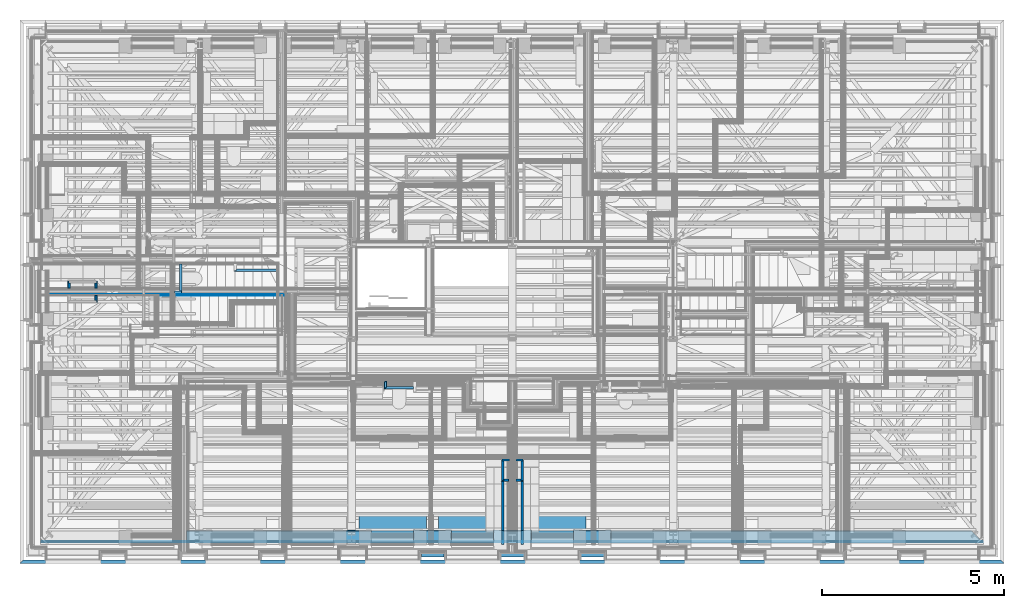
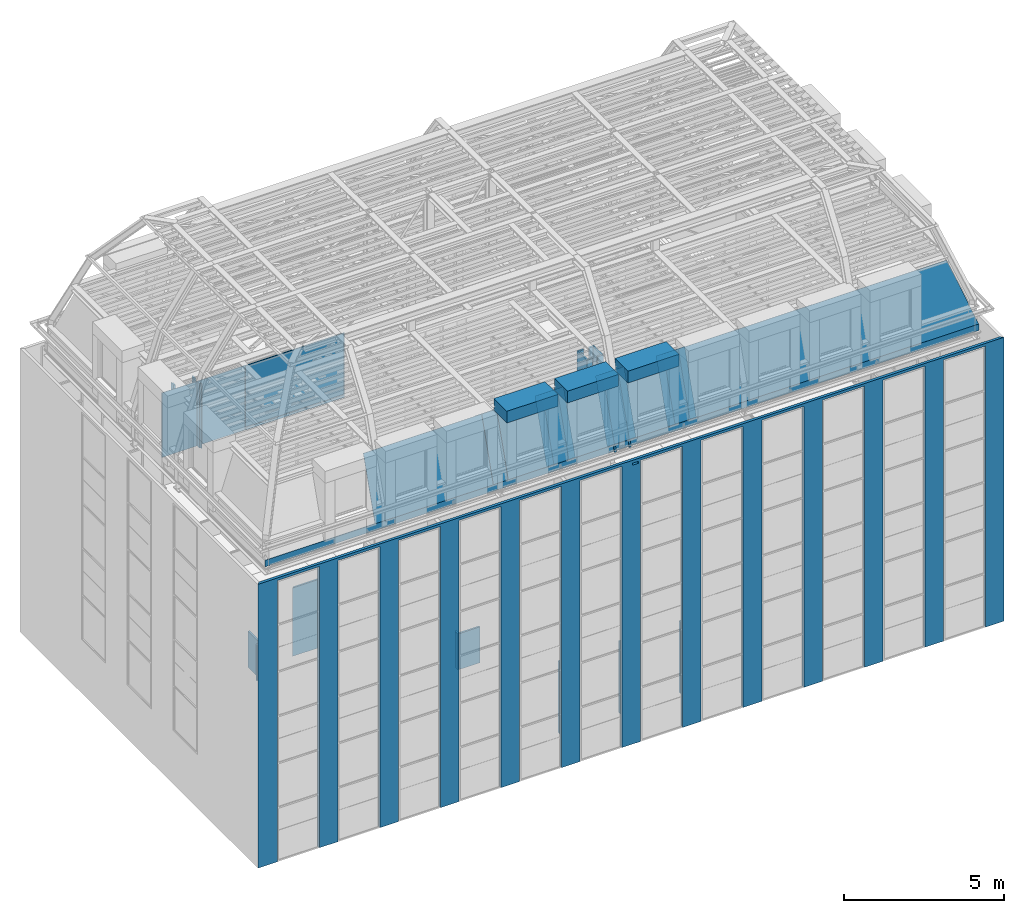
# One storey, part 14 of 183: 37 walls, 13 openings.
"""IFC2X3 building model written with IfcOpenShell, lengths in metres."""

from ifc_helpers import new_model, entity, si_unit, converted_unit, derived_unit, money_unit, direction, frame, frame_2d, origin_with_axes, place, context, subcontext, project, spatial, polyline, rectangle, outline, extrude, clip, halfspace, material, layer, layer_set, layer_usage, type_object, element, save


model = new_model("IFC2X3")

# Units and contexts
model_context = context("Model", 3, precision=1e-05, world=origin_with_axes(), true_north=direction((0.0, 1.0)))
body_context = subcontext(model_context, "Body", "Model", "MODEL_VIEW", scale=1.0)
ifc_project = project(units=[si_unit("LENGTHUNIT", "METRE"), si_unit("AREAUNIT", "SQUARE_METRE"), si_unit("VOLUMEUNIT", "CUBIC_METRE"), si_unit("ABSORBEDDOSEUNIT", "GRAY"), si_unit("AMOUNTOFSUBSTANCEUNIT", "MOLE"), si_unit("DOSEEQUIVALENTUNIT", "SIEVERT"), si_unit("ELECTRICCAPACITANCEUNIT", "FARAD"), si_unit("ELECTRICCHARGEUNIT", "COULOMB"), si_unit("ELECTRICCONDUCTANCEUNIT", "SIEMENS"), si_unit("ELECTRICCURRENTUNIT", "AMPERE"), si_unit("ELECTRICRESISTANCEUNIT", "OHM"), si_unit("ELECTRICVOLTAGEUNIT", "VOLT"), si_unit("ENERGYUNIT", "JOULE"), si_unit("FORCEUNIT", "NEWTON"), si_unit("FREQUENCYUNIT", "HERTZ"), si_unit("ILLUMINANCEUNIT", "LUX"), si_unit("INDUCTANCEUNIT", "HENRY"), si_unit("LUMINOUSFLUXUNIT", "LUMEN"), si_unit("LUMINOUSINTENSITYUNIT", "CANDELA"), si_unit("MAGNETICFLUXDENSITYUNIT", "TESLA"), si_unit("MAGNETICFLUXUNIT", "WEBER"), si_unit("MASSUNIT", "GRAM"), converted_unit("PLANEANGLEUNIT", "degree", entity("IfcReal", 0.0174532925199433), si_unit("PLANEANGLEUNIT", "RADIAN"), dimensions=[0, 0, 0, 0, 0, 0, 0]), si_unit("POWERUNIT", "WATT"), si_unit("PRESSUREUNIT", "PASCAL"), si_unit("RADIOACTIVITYUNIT", "BECQUEREL"), si_unit("SOLIDANGLEUNIT", "STERADIAN"), si_unit("THERMODYNAMICTEMPERATUREUNIT", "KELVIN"), si_unit("TIMEUNIT", "SECOND"), derived_unit("ACCELERATIONUNIT", [(si_unit("LENGTHUNIT", "METRE"), 1), (si_unit("TIMEUNIT", "SECOND"), -2)]), derived_unit("ANGULARVELOCITYUNIT", [(converted_unit("PLANEANGLEUNIT", "degree", entity("IfcReal", 0.0174532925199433), si_unit("PLANEANGLEUNIT", "RADIAN"), dimensions=[0, 0, 0, 0, 0, 0, 0]), 1), (si_unit("TIMEUNIT", "SECOND"), -1)]), derived_unit("CURVATUREUNIT", [(converted_unit("PLANEANGLEUNIT", "degree", entity("IfcReal", 0.0174532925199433), si_unit("PLANEANGLEUNIT", "RADIAN"), dimensions=[0, 0, 0, 0, 0, 0, 0]), 1), (si_unit("LENGTHUNIT", "METRE"), -1)]), derived_unit("DYNAMICVISCOSITYUNIT", [(si_unit("PRESSUREUNIT", "PASCAL"), 1), (si_unit("TIMEUNIT", "SECOND"), 1)]), derived_unit("HEATFLUXDENSITYUNIT", [(si_unit("POWERUNIT", "WATT"), 1), (si_unit("LENGTHUNIT", "METRE"), -2)]), derived_unit("HEATINGVALUEUNIT", [(si_unit("ENERGYUNIT", "JOULE"), 1), (si_unit("MASSUNIT", "GRAM"), -1)]), derived_unit("INTEGERCOUNTRATEUNIT", [(si_unit("TIMEUNIT", "SECOND"), -1)]), derived_unit("IONCONCENTRATIONUNIT", [(si_unit("MASSUNIT", "GRAM"), 1), (si_unit("VOLUMEUNIT", "CUBIC_METRE"), -1)]), derived_unit("ISOTHERMALMOISTURECAPACITYUNIT", [(si_unit("VOLUMEUNIT", "CUBIC_METRE"), 1), (si_unit("MASSUNIT", "GRAM"), -1)]), derived_unit("KINEMATICVISCOSITYUNIT", [(si_unit("AREAUNIT", "SQUARE_METRE"), 1), (si_unit("TIMEUNIT", "SECOND"), -1)]), derived_unit("LINEARFORCEUNIT", [(si_unit("FORCEUNIT", "NEWTON"), 1), (si_unit("LENGTHUNIT", "METRE"), -1)]), derived_unit("LINEARMOMENTUNIT", [(si_unit("FORCEUNIT", "NEWTON"), 1), (si_unit("LENGTHUNIT", "METRE"), -1)]), derived_unit("LINEARSTIFFNESSUNIT", [(si_unit("FORCEUNIT", "NEWTON"), 1), (si_unit("LENGTHUNIT", "METRE"), -1)]), derived_unit("LINEARVELOCITYUNIT", [(si_unit("LENGTHUNIT", "METRE"), 1), (si_unit("TIMEUNIT", "SECOND"), -1)]), derived_unit("LUMINOUSINTENSITYDISTRIBUTIONUNIT", [(si_unit("LUMINOUSINTENSITYUNIT", "CANDELA"), 1), (si_unit("LUMINOUSFLUXUNIT", "LUMEN"), -1)]), derived_unit("MASSDENSITYUNIT", [(si_unit("MASSUNIT", "GRAM"), 1), (si_unit("VOLUMEUNIT", "CUBIC_METRE"), -1)]), derived_unit("MASSFLOWRATEUNIT", [(si_unit("MASSUNIT", "GRAM"), 1), (si_unit("TIMEUNIT", "SECOND"), -1)]), derived_unit("MASSPERLENGTHUNIT", [(si_unit("MASSUNIT", "GRAM"), 1), (si_unit("LENGTHUNIT", "METRE"), -1)]), derived_unit("MODULUSOFELASTICITYUNIT", [(si_unit("FORCEUNIT", "NEWTON"), 1), (si_unit("AREAUNIT", "SQUARE_METRE"), -1)]), derived_unit("MODULUSOFLINEARSUBGRADEREACTIONUNIT", [(si_unit("FORCEUNIT", "NEWTON"), 1), (si_unit("LENGTHUNIT", "METRE"), -2)]), derived_unit("MODULUSOFROTATIONALSUBGRADEREACTIONUNIT", [(si_unit("FORCEUNIT", "NEWTON"), 1), (si_unit("LENGTHUNIT", "METRE"), 1)]), derived_unit("MODULUSOFSUBGRADEREACTIONUNIT", [(si_unit("FORCEUNIT", "NEWTON"), 1), (si_unit("VOLUMEUNIT", "CUBIC_METRE"), -1)]), derived_unit("MOISTUREDIFFUSIVITYUNIT", [(si_unit("VOLUMEUNIT", "CUBIC_METRE"), 1), (si_unit("TIMEUNIT", "SECOND"), -1)]), derived_unit("MOLECULARWEIGHTUNIT", [(si_unit("MASSUNIT", "GRAM"), 1), (si_unit("AMOUNTOFSUBSTANCEUNIT", "MOLE"), -1)]), derived_unit("PLANARFORCEUNIT", [(si_unit("FORCEUNIT", "NEWTON"), 1), (si_unit("LENGTHUNIT", "METRE"), -2)]), derived_unit("ROTATIONALFREQUENCYUNIT", [(si_unit("TIMEUNIT", "SECOND"), -1)]), derived_unit("ROTATIONALMASSUNIT", [(si_unit("MASSUNIT", "GRAM"), 1), (si_unit("LENGTHUNIT", "METRE"), 2)]), derived_unit("ROTATIONALSTIFFNESSUNIT", [(si_unit("FORCEUNIT", "NEWTON"), 1), (si_unit("LENGTHUNIT", "METRE"), 1), (converted_unit("PLANEANGLEUNIT", "degree", entity("IfcReal", 0.0174532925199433), si_unit("PLANEANGLEUNIT", "RADIAN"), dimensions=[0, 0, 0, 0, 0, 0, 0]), -1)]), derived_unit("SECTIONAREAINTEGRALUNIT", [(si_unit("LENGTHUNIT", "METRE"), 5)]), derived_unit("SECTIONMODULUSUNIT", [(si_unit("LENGTHUNIT", "METRE"), 3)]), derived_unit("SHEARMODULUSUNIT", [(si_unit("FORCEUNIT", "NEWTON"), 1), (si_unit("AREAUNIT", "SQUARE_METRE"), -1)]), derived_unit("SOUNDPOWERUNIT", [(si_unit("ENERGYUNIT", "JOULE"), 1), (si_unit("TIMEUNIT", "SECOND"), -1)]), derived_unit("SPECIFICHEATCAPACITYUNIT", [(si_unit("FORCEUNIT", "NEWTON"), 1), (si_unit("MASSUNIT", "GRAM"), -1), (si_unit("THERMODYNAMICTEMPERATUREUNIT", "KELVIN"), -1)]), derived_unit("TEMPERATUREGRADIENTUNIT", [(si_unit("THERMODYNAMICTEMPERATUREUNIT", "KELVIN"), 1), (si_unit("LENGTHUNIT", "METRE"), -1)]), derived_unit("THERMALADMITTANCEUNIT", [(si_unit("POWERUNIT", "WATT"), 1), (si_unit("AREAUNIT", "SQUARE_METRE"), -1), (si_unit("THERMODYNAMICTEMPERATUREUNIT", "KELVIN"), -1)]), derived_unit("THERMALCONDUCTANCEUNIT", [(si_unit("POWERUNIT", "WATT"), 1), (si_unit("LENGTHUNIT", "METRE"), -1), (si_unit("THERMODYNAMICTEMPERATUREUNIT", "KELVIN"), -1)]), derived_unit("THERMALEXPANSIONCOEFFICIENTUNIT", [(si_unit("THERMODYNAMICTEMPERATUREUNIT", "KELVIN"), -1)]), derived_unit("THERMALRESISTANCEUNIT", [(si_unit("AREAUNIT", "SQUARE_METRE"), 1), (si_unit("POWERUNIT", "WATT"), -1)]), derived_unit("THERMALTRANSMITTANCEUNIT", [(si_unit("POWERUNIT", "WATT"), 1), (si_unit("AREAUNIT", "SQUARE_METRE"), -1), (si_unit("THERMODYNAMICTEMPERATUREUNIT", "KELVIN"), -1)]), derived_unit("TORQUEUNIT", [(si_unit("FORCEUNIT", "NEWTON"), 1), (si_unit("LENGTHUNIT", "METRE"), 1)]), derived_unit("VAPORPERMEABILITYUNIT", [(si_unit("MASSUNIT", "GRAM"), 1), (si_unit("TIMEUNIT", "SECOND"), -1)]), derived_unit("VOLUMETRICFLOWRATEUNIT", [(si_unit("VOLUMEUNIT", "CUBIC_METRE"), 1), (si_unit("TIMEUNIT", "SECOND"), -1)]), derived_unit("WARPINGCONSTANTUNIT", [(si_unit("LENGTHUNIT", "METRE"), 6)]), derived_unit("WARPINGMOMENTUNIT", [(si_unit("FORCEUNIT", "NEWTON"), 1), (si_unit("LENGTHUNIT", "METRE"), 2)]), money_unit("GBP")], contexts=[model_context])

# Site, building, storey
site_placement = place(None, origin_with_axes())
site = spatial("IfcSite", under=ifc_project, at=site_placement, Name="Site", CompositionType="ELEMENT")
building_placement = place(site_placement, origin_with_axes())
building = spatial("IfcBuilding", under=site, at=building_placement, Name="Building01", CompositionType="ELEMENT")
storey_placement = place(building_placement, frame((0.0, 0.0, 5.15), z_axis=(0.0, 0.0, 1.0), x_axis=(1.0, 0.0, 0.0)))
storey = spatial("IfcBuildingStorey", under=building, at=storey_placement, Name="1F", CompositionType="ELEMENT", Elevation=5.15)

# Wall, openings
ifc_material_1 = material(Name="A_BSUK_WallsExternal_Brick")
ifc_layer_1 = layer(ifc_material_1, 0.1, ventilated=False)
ifc_layer_set_1 = layer_set([ifc_layer_1])
ifc_layer_usage_1 = layer_usage(ifc_layer_set_1, "AXIS2", "POSITIVE", 0.0)
wall_type_1 = type_object("IfcWallType", Name="A-Walls-ExternalBrick", PredefinedType="NOTDEFINED")
wall_1_placement = place(storey_placement, frame((0.0, 0.0, -1.18), z_axis=(0.0, 0.0, 1.0), x_axis=(1.0, 0.0, 0.0)))
wall_1 = element("IfcWallStandardCase", 1, at=wall_1_placement, inside=storey, type_object=wall_type_1, material=ifc_layer_usage_1, Name="A-Walls-ExternalBrick", ObjectType="A-Walls-ExternalBrick", context=body_context, shape_type="SweptSolid", body=[
    extrude(outline(polyline([(26.88, 0.1), (0.1, 0.1), (0.0, 0.0), (26.98, 0.0), (26.88, 0.1)])), origin_with_axes(), (0.0, 0.0, 1.0), 10.850238),
])
opening_1_placement = place(wall_1_placement, frame((13.538416, 0.0, 10.664949), z_axis=(0.0, 0.0, 1.0), x_axis=(1.0, 0.0, 0.0)))
element("IfcOpeningElement", 2, at=opening_1_placement, cuts=wall_1, Name="Opening", ObjectType="Opening", context=body_context, shape_type="SweptSolid", body=[
    extrude(rectangle(XDim=0.075389, YDim=0.220658, at=frame_2d((-0.110329, 0.037695), x_axis=(0.0, -1.0))), frame((0.0, 0.0, 0.0), z_axis=(0.0, 1.0, 0.0), x_axis=(-1.0, 0.0, 0.0)), (0.0, 0.0, 1.0), 0.1),
])
opening_2_placement = place(wall_1_placement, frame((22.6, 0.0, 0.0), z_axis=(0.0, 0.0, 1.0), x_axis=(1.0, 0.0, 0.0)))
element("IfcOpeningElement", 3, at=opening_2_placement, cuts=wall_1, Name="Opening", ObjectType="Opening", context=body_context, shape_type="SweptSolid", body=[
    extrude(rectangle(XDim=1.52, YDim=10.75, at=frame_2d((-0.76, 5.375), x_axis=(-1.0, 0.0))), frame((0.0, 0.0, 0.0), z_axis=(0.0, 1.0, 0.0), x_axis=(-1.0, 0.0, 0.0)), (0.0, 0.0, 1.0), 0.1),
])
opening_3_placement = place(wall_1_placement, frame((20.41, 0.0, 0.0), z_axis=(0.0, 0.0, 1.0), x_axis=(1.0, 0.0, 0.0)))
element("IfcOpeningElement", 4, at=opening_3_placement, cuts=wall_1, Name="Opening", ObjectType="Opening", context=body_context, shape_type="SweptSolid", body=[
    extrude(rectangle(XDim=1.52, YDim=10.75, at=frame_2d((-0.76, 5.375), x_axis=(-1.0, 0.0))), frame((0.0, 0.0, 0.0), z_axis=(0.0, 1.0, 0.0), x_axis=(-1.0, 0.0, 0.0)), (0.0, 0.0, 1.0), 0.1),
])
opening_4_placement = place(wall_1_placement, frame((18.22, 0.0, 0.0), z_axis=(0.0, 0.0, 1.0), x_axis=(1.0, 0.0, 0.0)))
element("IfcOpeningElement", 5, at=opening_4_placement, cuts=wall_1, Name="Opening", ObjectType="Opening", context=body_context, shape_type="SweptSolid", body=[
    extrude(rectangle(XDim=1.52, YDim=10.75, at=frame_2d((-0.76, 5.375), x_axis=(-1.0, 0.0))), frame((0.0, 0.0, 0.0), z_axis=(0.0, 1.0, 0.0), x_axis=(-1.0, 0.0, 0.0)), (0.0, 0.0, 1.0), 0.1),
])
opening_5_placement = place(wall_1_placement, frame((16.03, 0.0, 0.0), z_axis=(0.0, 0.0, 1.0), x_axis=(1.0, 0.0, 0.0)))
element("IfcOpeningElement", 6, at=opening_5_placement, cuts=wall_1, Name="Opening", ObjectType="Opening", context=body_context, shape_type="SweptSolid", body=[
    extrude(rectangle(XDim=1.52, YDim=10.75, at=frame_2d((-0.76, 5.375), x_axis=(-1.0, 0.0))), frame((0.0, 0.0, 0.0), z_axis=(0.0, 1.0, 0.0), x_axis=(-1.0, 0.0, 0.0)), (0.0, 0.0, 1.0), 0.1),
])
opening_6_placement = place(wall_1_placement, frame((13.84, 0.0, 0.0), z_axis=(0.0, 0.0, 1.0), x_axis=(1.0, 0.0, 0.0)))
element("IfcOpeningElement", 7, at=opening_6_placement, cuts=wall_1, Name="Opening", ObjectType="Opening", context=body_context, shape_type="SweptSolid", body=[
    extrude(rectangle(XDim=1.52, YDim=10.75, at=frame_2d((-0.76, 5.375), x_axis=(-1.0, 0.0))), frame((0.0, 0.0, 0.0), z_axis=(0.0, 1.0, 0.0), x_axis=(-1.0, 0.0, 0.0)), (0.0, 0.0, 1.0), 0.1),
])
opening_7_placement = place(wall_1_placement, frame((11.65, 0.0, 0.0), z_axis=(0.0, 0.0, 1.0), x_axis=(1.0, 0.0, 0.0)))
element("IfcOpeningElement", 8, at=opening_7_placement, cuts=wall_1, Name="Opening", ObjectType="Opening", context=body_context, shape_type="SweptSolid", body=[
    extrude(rectangle(XDim=1.52, YDim=10.75, at=frame_2d((-0.76, 5.375), x_axis=(-1.0, 0.0))), frame((0.0, 0.0, 0.0), z_axis=(0.0, 1.0, 0.0), x_axis=(-1.0, 0.0, 0.0)), (0.0, 0.0, 1.0), 0.1),
])
opening_8_placement = place(wall_1_placement, frame((9.46, 0.0, 0.0), z_axis=(0.0, 0.0, 1.0), x_axis=(1.0, 0.0, 0.0)))
element("IfcOpeningElement", 9, at=opening_8_placement, cuts=wall_1, Name="Opening", ObjectType="Opening", context=body_context, shape_type="SweptSolid", body=[
    extrude(rectangle(XDim=1.52, YDim=10.75, at=frame_2d((-0.76, 5.375), x_axis=(-1.0, 0.0))), frame((0.0, 0.0, 0.0), z_axis=(0.0, 1.0, 0.0), x_axis=(-1.0, 0.0, 0.0)), (0.0, 0.0, 1.0), 0.1),
])
opening_9_placement = place(wall_1_placement, frame((24.79, 0.0, 0.0), z_axis=(0.0, 0.0, 1.0), x_axis=(1.0, 0.0, 0.0)))
element("IfcOpeningElement", 10, at=opening_9_placement, cuts=wall_1, Name="Opening", ObjectType="Opening", context=body_context, shape_type="SweptSolid", body=[
    extrude(rectangle(XDim=1.52, YDim=10.75, at=frame_2d((-0.76, 5.375), x_axis=(-1.0, 0.0))), frame((0.0, 0.0, 0.0), z_axis=(0.0, 1.0, 0.0), x_axis=(-1.0, 0.0, 0.0)), (0.0, 0.0, 1.0), 0.1),
])
opening_10_placement = place(wall_1_placement, frame((7.27, 0.0, 0.0), z_axis=(0.0, 0.0, 1.0), x_axis=(1.0, 0.0, 0.0)))
element("IfcOpeningElement", 11, at=opening_10_placement, cuts=wall_1, Name="Opening", ObjectType="Opening", context=body_context, shape_type="SweptSolid", body=[
    extrude(rectangle(XDim=1.52, YDim=10.75, at=frame_2d((-0.76, 5.375), x_axis=(-1.0, 0.0))), frame((0.0, 0.0, 0.0), z_axis=(0.0, 1.0, 0.0), x_axis=(-1.0, 0.0, 0.0)), (0.0, 0.0, 1.0), 0.1),
])
opening_11_placement = place(wall_1_placement, frame((5.08, 0.0, 0.0), z_axis=(0.0, 0.0, 1.0), x_axis=(1.0, 0.0, 0.0)))
element("IfcOpeningElement", 12, at=opening_11_placement, cuts=wall_1, Name="Opening", ObjectType="Opening", context=body_context, shape_type="SweptSolid", body=[
    extrude(rectangle(XDim=1.52, YDim=10.75, at=frame_2d((-0.76, 5.375), x_axis=(-1.0, 0.0))), frame((0.0, 0.0, 0.0), z_axis=(0.0, 1.0, 0.0), x_axis=(-1.0, 0.0, 0.0)), (0.0, 0.0, 1.0), 0.1),
])
opening_12_placement = place(wall_1_placement, frame((2.89, 0.0, 0.0), z_axis=(0.0, 0.0, 1.0), x_axis=(1.0, 0.0, 0.0)))
element("IfcOpeningElement", 13, at=opening_12_placement, cuts=wall_1, Name="Opening", ObjectType="Opening", context=body_context, shape_type="SweptSolid", body=[
    extrude(rectangle(XDim=1.52, YDim=10.75, at=frame_2d((-0.76, 5.375), x_axis=(-1.0, 0.0))), frame((0.0, 0.0, 0.0), z_axis=(0.0, 1.0, 0.0), x_axis=(-1.0, 0.0, 0.0)), (0.0, 0.0, 1.0), 0.1),
])
opening_13_placement = place(wall_1_placement, frame((0.7, 0.0, 0.0), z_axis=(0.0, 0.0, 1.0), x_axis=(1.0, 0.0, 0.0)))
element("IfcOpeningElement", 14, at=opening_13_placement, cuts=wall_1, Name="Opening", ObjectType="Opening", context=body_context, shape_type="SweptSolid", body=[
    extrude(rectangle(XDim=1.52, YDim=10.75, at=frame_2d((-0.76, 5.375), x_axis=(-1.0, 0.0))), frame((0.0, 0.0, 0.0), z_axis=(0.0, 1.0, 0.0), x_axis=(-1.0, 0.0, 0.0)), (0.0, 0.0, 1.0), 0.1),
])

# Walls
ifc_material_2 = material(Name="A_BSUK_WallsExternal_Block")
ifc_layer_2 = layer(ifc_material_2, 0.1, ventilated=False)
ifc_layer_set_2 = layer_set([ifc_layer_2])
ifc_layer_usage_2 = layer_usage(ifc_layer_set_2, "AXIS2", "POSITIVE", 0.0)
wall_type_2 = type_object("IfcWallType", Name="A-Walls-ExternalBlock", PredefinedType="NOTDEFINED")
for number, where, z_axis, x_axis, name in (
    (15, (11.627, 0.27, 0.0), (0.0, 0.0, 1.0), (-1.0, 0.0, 0.0), "A-Walls-ExternalBlock"),
    (16, (13.817, 0.27, 0.0), (0.0, 0.0, 1.0), (-1.0, 0.0, 0.0), "A-Walls-ExternalBlock"),
    (17, (16.007, 0.27, 0.0), (0.0, 0.0, 1.0), (-1.0, 0.0, 0.0), "A-Walls-ExternalBlock"),
):
    element("IfcWallStandardCase", number, at=place(storey_placement, frame(where, z_axis=z_axis, x_axis=x_axis)), inside=storey, type_object=wall_type_2, material=ifc_layer_usage_2, Name=name, ObjectType="A-Walls-ExternalBlock", context=body_context, shape_type="SweptSolid", body=[
        extrude(rectangle(XDim=0.624, YDim=0.1, at=frame_2d((0.312, 0.05), x_axis=(-1.0, 0.0))), origin_with_axes(), (0.0, 0.0, 1.0), 2.74),
    ])
ifc_material_3 = material(Name="A_BSUK_WallsInternal")
ifc_layer_3 = layer(ifc_material_3, 0.015, ventilated=False)
ifc_layer_set_3 = layer_set([ifc_layer_3])
ifc_layer_usage_3 = layer_usage(ifc_layer_set_3, "AXIS2", "POSITIVE", 0.0)
wall_type_3 = type_object("IfcWallType", Name="A-Walls-Internal", PredefinedType="NOTDEFINED")
wall_2_placement = place(storey_placement, frame((0.5938, 0.5788, 9.78), z_axis=(0.0, 0.0, 1.0), x_axis=(1.0, 0.0, 0.0)))
element("IfcWallStandardCase", 18, at=wall_2_placement, inside=storey, type_object=wall_type_3, material=ifc_layer_usage_3, Name="7C", ObjectType="A-Walls-Internal", context=body_context, shape_type="SweptSolid", body=[
    extrude(rectangle(XDim=25.8074, YDim=0.015, at=frame_2d((12.9037, 0.0075), x_axis=(-1.0, 0.0))), origin_with_axes(), (0.0, 0.0, 1.0), 0.25),
])
wall_3_placement = place(storey_placement, frame((0.6088, 0.5938, 9.78), z_axis=(0.0, 0.0, 1.0), x_axis=(1.0, 0.0, 0.0)))
element("IfcWallStandardCase", 19, at=wall_3_placement, inside=storey, type_object=wall_type_3, material=ifc_layer_usage_3, Name="7C", ObjectType="A-Walls-Internal", context=body_context, shape_type="SweptSolid", body=[
    extrude(rectangle(XDim=25.7774, YDim=0.015, at=frame_2d((12.8887, 0.0075), x_axis=(-1.0, 0.0))), origin_with_axes(), (0.0, 0.0, 1.0), 0.25),
])
ifc_material_4 = material(Name="A_BSUK_Walls_Timber")
ifc_layer_4 = layer(ifc_material_4, 0.015, ventilated=False)
ifc_material_5 = material(Name="A_BSUK_OpeningsClearance")
ifc_layer_5 = layer(ifc_material_5, 0.05, ventilated=False)
ifc_layer_set_4 = layer_set([ifc_layer_4, ifc_layer_5])
ifc_layer_usage_4 = layer_usage(ifc_layer_set_4, "AXIS2", "POSITIVE", 0.0)
wall_type_4 = type_object("IfcWallType", Name="SHE_A-Walls_Type05c_PreWallShell_65mm", PredefinedType="NOTDEFINED")
wall_4_placement = place(storey_placement, frame((10.057536, 4.845, 0.0), z_axis=(0.0, 0.0, 1.0), x_axis=(0.0, -1.0, 0.0)))
element("IfcWallStandardCase", 20, at=wall_4_placement, inside=storey, type_object=wall_type_4, material=ifc_layer_usage_4, Name="5C", ObjectType="SHE_A-Walls_Type05c_PreWallShell_65mm", context=body_context, shape_type="SweptSolid", body=[
    extrude(outline(polyline([(0.065, -0.065), (0.0, 0.0), (-0.15, 0.0), (-0.15, -0.05), (-0.12, -0.05), (-0.12, -0.065), (0.065, -0.065)])), origin_with_axes(), (0.0, 0.0, 1.0), 1.375),
])
wall_5_placement = place(storey_placement, frame((10.792536, 4.845, 0.0), z_axis=(0.0, 0.0, 1.0), x_axis=(1.0, 0.0, 0.0)))
element("IfcWallStandardCase", 21, at=wall_5_placement, inside=storey, type_object=wall_type_4, material=ifc_layer_usage_4, Name="5C", ObjectType="SHE_A-Walls_Type05c_PreWallShell_65mm", context=body_context, shape_type="SweptSolid", body=[
    extrude(outline(polyline([(0.0, -0.065), (0.0, 0.0), (-0.735, 0.0), (-0.8, -0.065), (0.0, -0.065)])), origin_with_axes(), (0.0, 0.0, 1.0), 1.375),
])
wall_6_placement = place(storey_placement, frame((5.929669, 8.07567, 0.0), z_axis=(0.0, 0.0, 1.0), x_axis=(1.0, 0.0, 0.0)))
element("IfcWallStandardCase", 22, at=wall_6_placement, inside=storey, type_object=wall_type_4, material=ifc_layer_usage_4, Name="5C", ObjectType="SHE_A-Walls_Type05c_PreWallShell_65mm", context=body_context, shape_type="SweptSolid", body=[
    extrude(outline(polyline([(1.135, 0.0), (0.0, 0.0), (0.0, -0.05), (-0.05, -0.05), (-0.05, -0.065), (1.135, -0.065), (1.135, 0.0)])), origin_with_axes(), (0.0, 0.0, 1.0), 2.615),
])
ifc_layer_set_5 = layer_set([ifc_layer_5, ifc_layer_4])
ifc_layer_usage_5 = layer_usage(ifc_layer_set_5, "AXIS2", "POSITIVE", 0.0)
wall_7_placement = place(storey_placement, frame((4.37573, 8.21067, 0.0), z_axis=(0.0, 0.0, 1.0), x_axis=(0.0, -1.0, 0.0)))
element("IfcWallStandardCase", 23, at=wall_7_placement, inside=storey, type_object=wall_type_4, material=ifc_layer_usage_5, Name="5C", ObjectType="SHE_A-Walls_Type05c_PreWallShell_65mm", context=body_context, shape_type="SweptSolid", body=[
    extrude(outline(polyline([(0.735, 0.05), (0.8, 0.05), (0.8, 0.065), (0.0, 0.065), (0.0, 0.0), (0.735, 0.0), (0.735, 0.05)])), origin_with_axes(), (0.0, 0.0, 1.0), 1.375),
])
wall_8_placement = place(storey_placement, frame((4.42573, 7.47567, 0.0), z_axis=(0.0, 0.0, 1.0), x_axis=(-1.0, 0.0, 0.0)))
element("IfcWallStandardCase", 24, at=wall_8_placement, inside=storey, type_object=wall_type_4, material=ifc_layer_usage_5, Name="5C", ObjectType="SHE_A-Walls_Type05c_PreWallShell_65mm", context=body_context, shape_type="SweptSolid", body=[
    extrude(rectangle(XDim=0.185, YDim=0.065, at=frame_2d((0.0925, 0.0325), x_axis=(-1.0, 0.0))), origin_with_axes(), (0.0, 0.0, 1.0), 1.375),
])
wall_9_placement = place(storey_placement, frame((13.734998, 2.264668, 9.78), z_axis=(0.0, 0.0, 1.0), x_axis=(0.0, 1.0, 0.0)))
element("IfcWallStandardCase", 25, at=wall_9_placement, inside=storey, type_object=wall_type_4, material=ifc_layer_usage_4, Name="5C", ObjectType="SHE_A-Walls_Type05c_PreWallShell_65mm", context=body_context, shape_type="SweptSolid", body=[
    extrude(outline(polyline([(0.540094, -0.05), (0.540094, 0.0), (0.0, 0.0), (0.0, -0.05), (-0.015, -0.065), (0.605094, -0.065), (0.590094, -0.05), (0.540094, -0.05)])), origin_with_axes(), (0.0, 0.0, 1.0), 2.468),
])
wall_10_placement = place(storey_placement, frame((13.6, 2.314668, 9.78), z_axis=(0.0, 0.0, 1.0), x_axis=(1.0, 0.0, 0.0)))
element("IfcWallStandardCase", 26, at=wall_10_placement, inside=storey, type_object=wall_type_4, material=ifc_layer_usage_4, Name="5C", ObjectType="SHE_A-Walls_Type05c_PreWallShell_65mm", context=body_context, shape_type="SweptSolid", body=[
    extrude(outline(polyline([(0.135, -0.05), (0.135, 0.0), (0.0, 0.0), (0.0, -0.065), (0.199998, -0.065), (0.184998, -0.05), (0.135, -0.05)])), origin_with_axes(), (0.0, 0.0, 1.0), 2.468),
])
wall_11_placement = place(storey_placement, frame((13.734998, 2.249668, 9.78), z_axis=(0.0, 0.0, 1.0), x_axis=(0.0, -1.0, 0.0)))
element("IfcWallStandardCase", 27, at=wall_11_placement, inside=storey, type_object=wall_type_4, material=ifc_layer_usage_5, Name="5C", ObjectType="SHE_A-Walls_Type05c_PreWallShell_65mm", context=body_context, shape_type="Clipping", body=[
    clip(extrude(outline(polyline([(1.736326, 0.065), (-0.015, 0.065), (0.0, 0.05), (0.0, 0.0), (1.736326, 0.0), (1.736326, 0.065)])), origin_with_axes(), (0.0, 0.0, 1.0), 1.375), halfspace(frame((1.570521, 0.0, 0.510293), z_axis=(-0.95105652, 0.0, -0.30901699), x_axis=(0.0, -1.0, 0.0)), True)),
])
wall_12_placement = place(storey_placement, frame((13.6, 2.804761, 9.78), z_axis=(0.0, 0.0, 1.0), x_axis=(1.0, 0.0, 0.0)))
element("IfcWallStandardCase", 28, at=wall_12_placement, inside=storey, type_object=wall_type_4, material=ifc_layer_usage_5, Name="5C", ObjectType="SHE_A-Walls_Type05c_PreWallShell_65mm", context=body_context, shape_type="SweptSolid", body=[
    extrude(outline(polyline([(0.184998, 0.05), (0.199998, 0.065), (0.015, 0.065), (0.015, 0.05), (0.0, 0.05), (0.0, 0.0), (0.185, 0.0), (0.185, 0.05), (0.184998, 0.05)])), origin_with_axes(), (0.0, 0.0, 1.0), 2.468),
])
wall_13_placement = place(storey_placement, frame((13.265002, 2.264668, 9.78), z_axis=(0.0, 0.0, 1.0), x_axis=(0.0, 1.0, 0.0)))
element("IfcWallStandardCase", 29, at=wall_13_placement, inside=storey, type_object=wall_type_4, material=ifc_layer_usage_5, Name="5C", ObjectType="SHE_A-Walls_Type05c_PreWallShell_65mm", context=body_context, shape_type="SweptSolid", body=[
    extrude(outline(polyline([(0.605094, 0.065), (-0.015, 0.065), (0.0, 0.05), (0.0, 0.0), (0.540094, 0.0), (0.605094, 0.065)])), origin_with_axes(), (0.0, 0.0, 1.0), 2.468),
])
wall_14_placement = place(storey_placement, frame((13.395002, 2.314668, 9.78), z_axis=(0.0, 0.0, 1.0), x_axis=(-1.0, 0.0, 0.0)))
element("IfcWallStandardCase", 30, at=wall_14_placement, inside=storey, type_object=wall_type_4, material=ifc_layer_usage_5, Name="5C", ObjectType="SHE_A-Walls_Type05c_PreWallShell_65mm", context=body_context, shape_type="SweptSolid", body=[
    extrude(outline(polyline([(0.13, 0.05), (0.18, 0.05), (0.195, 0.065), (-0.004998, 0.065), (-0.004998, 0.05), (0.0, 0.05), (0.0, 0.0), (0.13, 0.0), (0.13, 0.05)])), origin_with_axes(), (0.0, 0.0, 1.0), 2.468),
])
wall_15_placement = place(storey_placement, frame((13.265002, 2.249668, 9.78), z_axis=(0.0, 0.0, 1.0), x_axis=(0.0, -1.0, 0.0)))
element("IfcWallStandardCase", 31, at=wall_15_placement, inside=storey, type_object=wall_type_4, material=ifc_layer_usage_4, Name="5C", ObjectType="SHE_A-Walls_Type05c_PreWallShell_65mm", context=body_context, shape_type="Clipping", body=[
    clip(extrude(outline(polyline([(1.736326, 0.0), (0.0, 0.0), (0.0, -0.05), (-0.015, -0.065), (1.736326, -0.065), (1.736326, 0.0)])), origin_with_axes(), (0.0, 0.0, 1.0), 1.375), halfspace(frame((1.570521, 0.0, 0.510293), z_axis=(-0.95105652, 0.0, -0.30901699), x_axis=(0.0, -1.0, 0.0)), True)),
])
wall_16_placement = place(storey_placement, frame((13.415, 2.804761, 9.78), z_axis=(0.0, 0.0, 1.0), x_axis=(-1.0, 0.0, 0.0)))
element("IfcWallStandardCase", 32, at=wall_16_placement, inside=storey, type_object=wall_type_4, material=ifc_layer_usage_4, Name="5C", ObjectType="SHE_A-Walls_Type05c_PreWallShell_65mm", context=body_context, shape_type="SweptSolid", body=[
    extrude(outline(polyline([(0.199998, -0.05), (0.199998, 0.0), (0.0, 0.0), (0.0, -0.065), (0.214998, -0.065), (0.199998, -0.05)])), origin_with_axes(), (0.0, 0.0, 1.0), 2.468),
])
wall_17_placement = place(storey_placement, frame((2.050111, 7.349889, 9.78), z_axis=(0.0, 0.0, 1.0), x_axis=(0.0, 1.0, 0.0)))
element("IfcWallStandardCase", 33, at=wall_17_placement, inside=storey, type_object=wall_type_4, material=ifc_layer_usage_4, Name="5C", ObjectType="SHE_A-Walls_Type05c_PreWallShell_65mm", context=body_context, shape_type="SweptSolid", body=[
    extrude(outline(polyline([(0.0, -0.065), (0.0, 0.0), (-0.134949, 0.0), (-0.134949, -0.05), (-0.184949, -0.05), (-0.184949, -0.065), (0.0, -0.065)])), origin_with_axes(), (0.0, 0.0, 1.0), 2.468),
])
wall_18_placement = place(storey_placement, frame((2.050111, 7.550111, 9.78), z_axis=(0.0, 0.0, 1.0), x_axis=(0.0, 1.0, 0.0)))
element("IfcWallStandardCase", 34, at=wall_18_placement, inside=storey, type_object=wall_type_4, material=ifc_layer_usage_4, Name="5C", ObjectType="SHE_A-Walls_Type05c_PreWallShell_65mm", context=body_context, shape_type="SweptSolid", body=[
    extrude(outline(polyline([(0.134949, -0.05), (0.134949, 0.0), (0.0, 0.0), (0.0, -0.065), (0.184949, -0.065), (0.184949, -0.05), (0.134949, -0.05)])), origin_with_axes(), (0.0, 0.0, 1.0), 2.468),
])
wall_19_placement = place(storey_placement, frame((1.380111, 7.550111, 9.78), z_axis=(0.0, 0.0, 1.0), x_axis=(0.0, 1.0, 0.0)))
element("IfcWallStandardCase", 35, at=wall_19_placement, inside=storey, type_object=wall_type_4, material=ifc_layer_usage_5, Name="5C", ObjectType="SHE_A-Walls_Type05c_PreWallShell_65mm", context=body_context, shape_type="SweptSolid", body=[
    extrude(outline(polyline([(0.134949, 0.05), (0.184949, 0.05), (0.184949, 0.065), (0.0, 0.065), (0.0, 0.0), (0.134949, 0.0), (0.134949, 0.05)])), origin_with_axes(), (0.0, 0.0, 1.0), 2.468),
])
ifc_material_6 = material(Name="A_BSUK_Roofs")
wall_type_5 = type_object("IfcWallType", Name="A-Walls-ExternalBlock", PredefinedType="NOTDEFINED")
for number, where, z_axis, x_axis, name in (
    (36, (9.290049, 1.31, 12.729998), (1.0, 0.0, 0.0), (0.0, -1.0, 0.0), "7C"),
    (37, (11.480049, 1.31, 12.729998), (1.0, 0.0, 0.0), (0.0, -1.0, 0.0), "7C"),
    (38, (13.670024, 1.31, 12.729998), (1.0, 0.0, 0.0), (0.0, -1.0, 0.0), "7C"),
):
    element("IfcWall", number, at=place(storey_placement, frame(where, z_axis=z_axis, x_axis=x_axis)), inside=storey, type_object=wall_type_5, material=ifc_material_6, Name=name, ObjectType="A-Walls-ExternalBlock", context=body_context, shape_type="SweptSolid", body=[
        extrude(rectangle(XDim=0.81, YDim=0.45, at=frame_2d((0.405, 0.225), x_axis=(1.0, 0.0))), origin_with_axes(), (0.0, 0.0, 1.0), 1.849951),
    ])
ifc_material_7 = material(Name="A_BSUK_WallInternal_Finishes_Plasterboard")
ifc_layer_6 = layer(ifc_material_7, 0.015, ventilated=False)
ifc_layer_set_6 = layer_set([ifc_layer_6])
ifc_layer_usage_6 = layer_usage(ifc_layer_set_6, "AXIS2", "POSITIVE", 0.0)
wall_type_6 = type_object("IfcWallType", Name="default", PredefinedType="NOTDEFINED")
wall_20_placement = place(storey_placement, frame((7.36, 7.364939, 9.78), z_axis=(0.0, 0.0, 1.0), x_axis=(-1.0, 0.0, 0.0)))
element("IfcWallStandardCase", 39, at=wall_20_placement, inside=storey, type_object=wall_type_6, material=ifc_layer_usage_6, Name="default", ObjectType="default", context=body_context, shape_type="SweptSolid", body=[
    extrude(outline(polyline([(3.564889, 0.015), (0.0, 0.015), (0.0, 0.0), (3.579889, 0.0), (3.564889, 0.015)])), origin_with_axes(), (0.0, 0.0, 1.0), 2.468),
])
wall_21_placement = place(storey_placement, frame((7.375, 7.379939, 9.78), z_axis=(0.0, 0.0, 1.0), x_axis=(-1.0, 0.0, 0.0)))
element("IfcWallStandardCase", 40, at=wall_21_placement, inside=storey, type_object=wall_type_6, material=ifc_layer_usage_6, Name="default", ObjectType="default", context=body_context, shape_type="SweptSolid", body=[
    extrude(rectangle(XDim=6.595061, YDim=0.015, at=frame_2d((3.29753, 0.0075), x_axis=(-1.0, 0.0))), origin_with_axes(), (0.0, 0.0, 1.0), 2.468),
])
ifc_layer_set_7 = layer_set([ifc_layer_4])
ifc_layer_usage_7 = layer_usage(ifc_layer_set_7, "AXIS2", "POSITIVE", 0.0)
wall_22_placement = place(storey_placement, frame((7.36, 7.349939, 9.795), z_axis=(0.0, 0.0, 1.0), x_axis=(-1.0, 0.0, 0.0)))
element("IfcWallStandardCase", 41, at=wall_22_placement, inside=storey, type_object=wall_type_6, material=ifc_layer_usage_7, Name="default", ObjectType="default", context=body_context, shape_type="SweptSolid", body=[
    extrude(outline(polyline([(3.549889, 0.015), (0.0, 0.015), (0.0, 0.0), (3.564889, 0.0), (3.549889, 0.015)])), origin_with_axes(), (0.0, 0.0, 1.0), 0.1),
])
wall_type_7 = type_object("IfcWallType", Name="A-Walls-Internal", PredefinedType="NOTDEFINED")
for number, where, z_axis, x_axis, name in (
    (42, (8.850024, 0.5788, 10.03), (0.0, 0.30901699, 0.95105652), (1.0, 0.0, 0.0), "7C"),
    (43, (11.040024, 0.5788, 10.03), (0.0, 0.30901699, 0.95105652), (1.0, 0.0, 0.0), "7C"),
):
    element("IfcWall", number, at=place(storey_placement, frame(where, z_axis=z_axis, x_axis=x_axis)), inside=storey, type_object=wall_type_7, material=ifc_material_3, Name=name, ObjectType="A-Walls-Internal", context=body_context, shape_type="SweptSolid", body=[
        extrude(rectangle(XDim=0.540001, YDim=0.015, at=frame_2d((0.27, 0.0075), x_axis=(-1.0, 0.0))), origin_with_axes(), (0.0, 0.0, 1.0), 2.373987),
    ])
for number, where, z_axis, x_axis, name in (
    (44, (13.229976, 0.5788, 10.03), (0.0, 0.30901699, 0.95105652), (1.0, 0.0, 0.0), "7C"),
    (45, (15.419976, 0.5788, 10.03), (0.0, 0.30901699, 0.95105652), (1.0, 0.0, 0.0), "7C"),
):
    element("IfcWall", number, at=place(storey_placement, frame(where, z_axis=z_axis, x_axis=x_axis)), inside=storey, type_object=wall_type_7, material=ifc_material_3, Name=name, ObjectType="A-Walls-Internal", context=body_context, shape_type="SweptSolid", body=[
        extrude(rectangle(XDim=0.540049, YDim=0.015, at=frame_2d((0.270024, 0.0075), x_axis=(-1.0, 0.0))), origin_with_axes(), (0.0, 0.0, 1.0), 2.373987),
    ])
wall_23_placement = place(storey_placement, frame((26.4012, 0.5788, 10.03), z_axis=(0.0, 0.30901699, 0.95105652), x_axis=(-1.0, 0.0, 0.0)))
element("IfcWall", 46, at=wall_23_placement, inside=storey, type_object=wall_type_7, material=ifc_material_3, Name="7C", ObjectType="A-Walls-Internal", context=body_context, shape_type="Clipping", body=[
    clip(extrude(outline(polyline([(21.8312, 0.0), (0.0, 0.0), (0.014266, -0.015), (21.8312, -0.015), (21.8312, 0.0)])), origin_with_axes(), (0.0, 0.0, 1.0), 2.373987), halfspace(frame((0.0, 0.0, 0.0), z_axis=(0.70710678, 0.67249851, -0.21850801), x_axis=(-0.68915176, 0.72461704, 0.0)), True)),
])
for number, where, z_axis, x_axis, name in (
    (47, (15.419976, 0.594428, 10.029557), (0.0, 0.30901699, 0.95105652), (1.0, 0.0, 0.0), "7C"),
    (48, (13.229976, 0.594428, 10.029557), (0.0, 0.30901699, 0.95105652), (1.0, 0.0, 0.0), "7C"),
):
    element("IfcWall", number, at=place(storey_placement, frame(where, z_axis=z_axis, x_axis=x_axis)), inside=storey, type_object=wall_type_7, material=ifc_material_3, Name=name, ObjectType="A-Walls-Internal", context=body_context, shape_type="SweptSolid", body=[
        extrude(outline(polyline([(0.790049, 0.015), (-0.25, 0.015), (0.0, 0.0), (0.540049, 0.0), (0.790049, 0.015)])), origin_with_axes(), (0.0, 0.0, 1.0), 2.373987),
    ])
for number, where, z_axis, x_axis, name in (
    (49, (11.040024, 0.594428, 10.029557), (0.0, 0.30901699, 0.95105652), (1.0, 0.0, 0.0), "7C"),
    (50, (8.850024, 0.594428, 10.029557), (0.0, 0.30901699, 0.95105652), (1.0, 0.0, 0.0), "7C"),
):
    element("IfcWall", number, at=place(storey_placement, frame(where, z_axis=z_axis, x_axis=x_axis)), inside=storey, type_object=wall_type_7, material=ifc_material_3, Name=name, ObjectType="A-Walls-Internal", context=body_context, shape_type="SweptSolid", body=[
        extrude(outline(polyline([(0.790001, 0.015), (-0.250049, 0.015), (0.0, 0.0), (0.540001, 0.0), (0.790001, 0.015)])), origin_with_axes(), (0.0, 0.0, 1.0), 2.373987),
    ])

save(model, "model.ifc")
